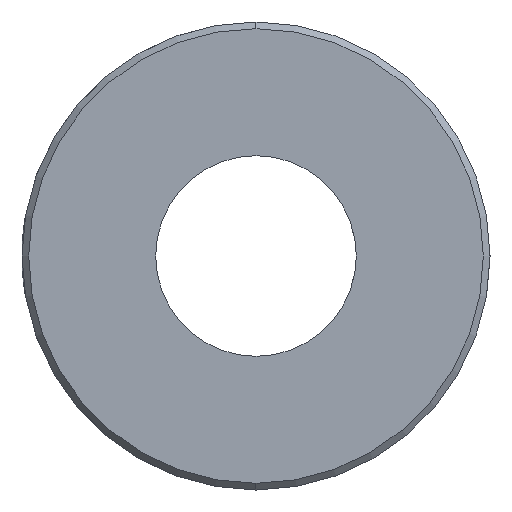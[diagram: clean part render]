
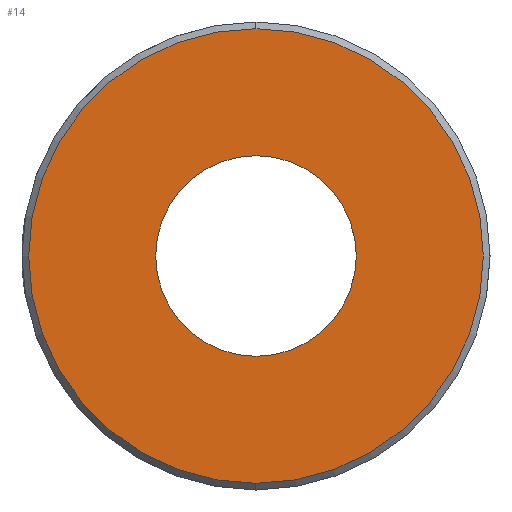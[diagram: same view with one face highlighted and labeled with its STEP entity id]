
A CAD part, left-side view. The second image highlights one B-rep face of the part: STEP entity #14.
In plain terms, the highlighted planar face has unit normal (-1, 0, 0) as drawn and (0, 0, 1) by its records, which use the part's own axes.
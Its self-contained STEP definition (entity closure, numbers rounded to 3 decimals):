
#9 = CIRCLE ( 'NONE', #703, 3. ) ;
#14 = ADVANCED_FACE ( 'NONE', ( #79, #898 ), #1305, .T. ) ;
#79 = FACE_OUTER_BOUND ( 'NONE', #449, .T. ) ;
#92 = EDGE_CURVE ( 'NONE', #380, #472, #556, .T. ) ;
#287 = CARTESIAN_POINT ( 'NONE',  ( 3., 0., 2.8 ) ) ;
#302 = EDGE_CURVE ( 'NONE', #1683, #1306, #383, .T. ) ;
#312 = DIRECTION ( 'NONE',  ( 1., 0., 0. ) ) ;
#320 = DIRECTION ( 'NONE',  ( 0., 0., 1. ) ) ;
#380 = VERTEX_POINT ( 'NONE', #1549 ) ;
#383 = CIRCLE ( 'NONE', #1103, 3. ) ;
#398 = CARTESIAN_POINT ( 'NONE',  ( 0., 0., 2.8 ) ) ;
#449 = EDGE_LOOP ( 'NONE', ( #1032, #1642 ) ) ;
#472 = VERTEX_POINT ( 'NONE', #522 ) ;
#510 = DIRECTION ( 'NONE',  ( 1., 0., 0. ) ) ;
#522 = CARTESIAN_POINT ( 'NONE',  ( -6.8, 0., 2.8 ) ) ;
#533 = EDGE_LOOP ( 'NONE', ( #1230, #1617 ) ) ;
#546 = DIRECTION ( 'NONE',  ( 1., 0., 0. ) ) ;
#556 = CIRCLE ( 'NONE', #1102, 6.8 ) ;
#590 = CIRCLE ( 'NONE', #1173, 6.8 ) ;
#615 = CARTESIAN_POINT ( 'NONE',  ( 0., 0., 2.8 ) ) ;
#617 = DIRECTION ( 'NONE',  ( 0., 0., 1. ) ) ;
#669 = EDGE_CURVE ( 'NONE', #472, #380, #590, .T. ) ;
#703 = AXIS2_PLACEMENT_3D ( 'NONE', #615, #1542, #312 ) ;
#783 = CARTESIAN_POINT ( 'NONE',  ( 0., 0., 2.8 ) ) ;
#790 = DIRECTION ( 'NONE',  ( 1., 0., 0. ) ) ;
#898 = FACE_BOUND ( 'NONE', #533, .T. ) ;
#1032 = ORIENTED_EDGE ( 'NONE', *, *, #669, .T. ) ;
#1033 = EDGE_CURVE ( 'NONE', #1306, #1683, #9, .T. ) ;
#1102 = AXIS2_PLACEMENT_3D ( 'NONE', #1312, #1236, #790 ) ;
#1103 = AXIS2_PLACEMENT_3D ( 'NONE', #1435, #320, #1127 ) ;
#1127 = DIRECTION ( 'NONE',  ( 1., 0., 0. ) ) ;
#1173 = AXIS2_PLACEMENT_3D ( 'NONE', #398, #1369, #546 ) ;
#1222 = CARTESIAN_POINT ( 'NONE',  ( -3., 0., 2.8 ) ) ;
#1230 = ORIENTED_EDGE ( 'NONE', *, *, #302, .F. ) ;
#1236 = DIRECTION ( 'NONE',  ( 0., 0., 1. ) ) ;
#1305 = PLANE ( 'NONE',  #1768 ) ;
#1306 = VERTEX_POINT ( 'NONE', #287 ) ;
#1312 = CARTESIAN_POINT ( 'NONE',  ( 0., 0., 2.8 ) ) ;
#1369 = DIRECTION ( 'NONE',  ( 0., 0., 1. ) ) ;
#1435 = CARTESIAN_POINT ( 'NONE',  ( 0., 0., 2.8 ) ) ;
#1542 = DIRECTION ( 'NONE',  ( 0., 0., 1. ) ) ;
#1549 = CARTESIAN_POINT ( 'NONE',  ( 6.8, 0., 2.8 ) ) ;
#1617 = ORIENTED_EDGE ( 'NONE', *, *, #1033, .F. ) ;
#1642 = ORIENTED_EDGE ( 'NONE', *, *, #92, .T. ) ;
#1683 = VERTEX_POINT ( 'NONE', #1222 ) ;
#1768 = AXIS2_PLACEMENT_3D ( 'NONE', #783, #617, #510 ) ;
